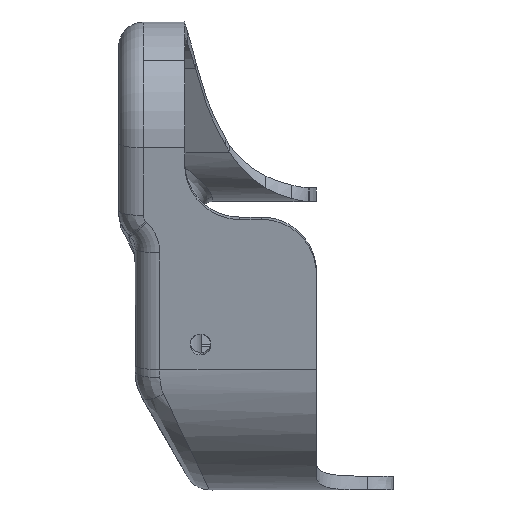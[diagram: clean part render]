
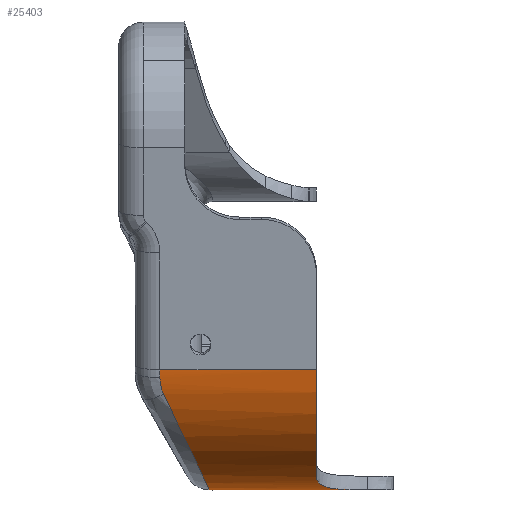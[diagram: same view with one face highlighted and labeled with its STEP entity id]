
A CAD part, left-side view. The second image highlights one B-rep face of the part: STEP entity #25403.
In plain terms, the highlighted cylindrical face has radius 26.5 mm (diameter 53 mm), a partial arc.
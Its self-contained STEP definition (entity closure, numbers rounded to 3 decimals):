
#25390=VECTOR('Line Direction',#25389,1.) ;
#24338=DIRECTION('Axis2P3D Direction',(0.,-1.,0.)) ;
#25384=DIRECTION('Axis2P3D Direction',(0.,1.,0.)) ;
#25385=DIRECTION('Axis2P3D XDirection',(0.643,0.,0.766)) ;
#25389=DIRECTION('Vector Direction',(0.,1.,0.)) ;
#23080=CARTESIAN_POINT('Vertex',(644.593,-540.761,350.545)) ;
#23305=CARTESIAN_POINT('Vertex',(644.593,-512.261,350.545)) ;
#24223=CARTESIAN_POINT('Vertex',(659.771,-540.761,331.)) ;
#24227=CARTESIAN_POINT('Control Point',(659.771,-540.761,331.)) ;
#24228=CARTESIAN_POINT('Control Point',(660.924,-540.761,330.479)) ;
#24229=CARTESIAN_POINT('Control Point',(662.135,-540.933,330.014)) ;
#24230=CARTESIAN_POINT('Control Point',(663.375,-541.312,329.63)) ;
#24231=CARTESIAN_POINT('Control Point',(665.087,-542.184,329.214)) ;
#24232=CARTESIAN_POINT('Control Point',(666.544,-543.434,328.967)) ;
#24233=CARTESIAN_POINT('Control Point',(666.967,-543.856,328.904)) ;
#24234=CARTESIAN_POINT('Control Point',(668.12,-545.191,328.756)) ;
#24235=CARTESIAN_POINT('Control Point',(668.957,-546.742,328.696)) ;
#24236=CARTESIAN_POINT('Control Point',(669.354,-547.832,328.678)) ;
#24237=CARTESIAN_POINT('Control Point',(669.592,-548.958,328.669)) ;
#24238=CARTESIAN_POINT('Control Point',(669.668,-550.094,328.666)) ;
#24239=CARTESIAN_POINT('Vertex',(669.668,-550.094,328.666)) ;
#24281=CARTESIAN_POINT('Control Point',(644.593,-540.761,350.545)) ;
#24282=CARTESIAN_POINT('Control Point',(645.487,-540.761,345.474)) ;
#24283=CARTESIAN_POINT('Control Point',(647.612,-540.761,340.619)) ;
#24284=CARTESIAN_POINT('Control Point',(650.902,-540.761,336.383)) ;
#24285=CARTESIAN_POINT('Control Point',(655.079,-540.761,333.122)) ;
#24286=CARTESIAN_POINT('Control Point',(659.771,-540.761,331.)) ;
#24301=CARTESIAN_POINT('Control Point',(644.593,-540.761,350.545)) ;
#24302=CARTESIAN_POINT('Control Point',(644.593,-512.261,350.545)) ;
#24334=CARTESIAN_POINT('Vertex',(644.89,-512.261,349.098)) ;
#24337=CARTESIAN_POINT('Axis2P3D Location',(670.691,-512.261,355.146)) ;
#24405=CARTESIAN_POINT('Control Point',(644.89,-512.261,349.098)) ;
#24406=CARTESIAN_POINT('Control Point',(644.98,-512.261,348.715)) ;
#24407=CARTESIAN_POINT('Control Point',(645.077,-512.286,348.333)) ;
#24408=CARTESIAN_POINT('Control Point',(645.181,-512.336,347.954)) ;
#24409=CARTESIAN_POINT('Control Point',(645.361,-512.46,347.34)) ;
#24410=CARTESIAN_POINT('Control Point',(645.553,-512.649,346.752)) ;
#24411=CARTESIAN_POINT('Control Point',(645.631,-512.733,346.524)) ;
#24412=CARTESIAN_POINT('Control Point',(645.709,-512.827,346.302)) ;
#24413=CARTESIAN_POINT('Control Point',(645.787,-512.931,346.086)) ;
#24414=CARTESIAN_POINT('Vertex',(645.787,-512.931,346.086)) ;
#24580=CARTESIAN_POINT('Vertex',(670.69,-521.29,328.646)) ;
#24584=CARTESIAN_POINT('Control Point',(670.69,-521.29,328.646)) ;
#24585=CARTESIAN_POINT('Control Point',(668.13,-521.29,328.646)) ;
#24586=CARTESIAN_POINT('Control Point',(665.571,-521.142,328.955)) ;
#24587=CARTESIAN_POINT('Control Point',(663.079,-520.845,329.573)) ;
#24588=CARTESIAN_POINT('Control Point',(658.64,-520.038,331.258)) ;
#24589=CARTESIAN_POINT('Control Point',(654.777,-518.822,333.794)) ;
#24590=CARTESIAN_POINT('Control Point',(653.124,-518.178,335.139)) ;
#24591=CARTESIAN_POINT('Control Point',(650.289,-516.83,337.95)) ;
#24592=CARTESIAN_POINT('Control Point',(648.072,-515.294,341.156)) ;
#24593=CARTESIAN_POINT('Control Point',(647.164,-514.53,342.749)) ;
#24594=CARTESIAN_POINT('Control Point',(646.402,-513.74,344.397)) ;
#24595=CARTESIAN_POINT('Control Point',(645.787,-512.931,346.086)) ;
#25359=CARTESIAN_POINT('Control Point',(670.69,-552.805,328.646)) ;
#25360=CARTESIAN_POINT('Control Point',(670.236,-552.214,328.646)) ;
#25361=CARTESIAN_POINT('Control Point',(669.906,-551.539,328.657)) ;
#25362=CARTESIAN_POINT('Control Point',(669.716,-550.821,328.664)) ;
#25363=CARTESIAN_POINT('Control Point',(669.668,-550.094,328.666)) ;
#25364=CARTESIAN_POINT('Vertex',(670.69,-552.805,328.646)) ;
#25383=CARTESIAN_POINT('Axis2P3D Location',(670.691,-512.577,355.146)) ;
#25388=CARTESIAN_POINT('Line Origine',(670.69,-525.777,328.646)) ;
#24339=AXIS2_PLACEMENT_3D('Circle Axis2P3D',#24337,#24338,$) ;
#25386=AXIS2_PLACEMENT_3D('Cylinder Axis2P3D',#25383,#25384,#25385) ;
#24241=EDGE_CURVE('',#24240,#24224,#24226,.F.) ;
#24287=EDGE_CURVE('',#23081,#24224,#24280,.T.) ;
#24303=EDGE_CURVE('',#23081,#23306,#24300,.T.) ;
#24341=EDGE_CURVE('',#24335,#23306,#24340,.F.) ;
#24416=EDGE_CURVE('',#24415,#24335,#24404,.F.) ;
#24596=EDGE_CURVE('',#24581,#24415,#24583,.T.) ;
#25366=EDGE_CURVE('',#24240,#25365,#25358,.F.) ;
#25392=EDGE_CURVE('',#25365,#24581,#25391,.T.) ;
#25394=ORIENTED_EDGE('',*,*,#24241,.T.) ;
#25395=ORIENTED_EDGE('',*,*,#24287,.F.) ;
#25396=ORIENTED_EDGE('',*,*,#24303,.T.) ;
#25397=ORIENTED_EDGE('',*,*,#24341,.F.) ;
#25398=ORIENTED_EDGE('',*,*,#24416,.F.) ;
#25399=ORIENTED_EDGE('',*,*,#24596,.F.) ;
#25400=ORIENTED_EDGE('',*,*,#25392,.F.) ;
#25401=ORIENTED_EDGE('',*,*,#25366,.F.) ;
#25391=LINE('Line',#25388,#25390) ;
#25403=ADVANCED_FACE('0112',(#25402),#25387,.T.) ;
#24340=CIRCLE('generated circle',#24339,26.5) ;
#25387=CYLINDRICAL_SURFACE('generated cylinder',#25386,26.5) ;
#23081=VERTEX_POINT('',#23080) ;
#23306=VERTEX_POINT('',#23305) ;
#24224=VERTEX_POINT('',#24223) ;
#24240=VERTEX_POINT('',#24239) ;
#24335=VERTEX_POINT('',#24334) ;
#24415=VERTEX_POINT('',#24414) ;
#24581=VERTEX_POINT('',#24580) ;
#25365=VERTEX_POINT('',#25364) ;
#24226=B_SPLINE_CURVE_WITH_KNOTS('',5,(#24227,#24228,#24229,#24230,#24231,#24232,#24233,#24234,#24235,#24236,#24237,#24238),.UNSPECIFIED.,.F.,.U.,(6,3,3,6),(0.,7.618,11.062,17.807),.UNSPECIFIED.) ;
#24280=B_SPLINE_CURVE_WITH_KNOTS('',5,(#24281,#24282,#24283,#24284,#24285,#24286),.UNSPECIFIED.,.F.,.U.,(6,6),(0.,23.318),.UNSPECIFIED.) ;
#24300=B_SPLINE_CURVE_WITH_KNOTS('',1,(#24301,#24302),.UNSPECIFIED.,.F.,.U.,(2,2),(-28.184,0.316),.UNSPECIFIED.) ;
#24404=B_SPLINE_CURVE_WITH_KNOTS('',5,(#24405,#24406,#24407,#24408,#24409,#24410,#24411,#24412,#24413),.UNSPECIFIED.,.F.,.U.,(6,3,6),(31.265,34.79,37.097),.UNSPECIFIED.) ;
#24583=B_SPLINE_CURVE_WITH_KNOTS('',5,(#24584,#24585,#24586,#24587,#24588,#24589,#24590,#24591,#24592,#24593,#24594,#24595),.UNSPECIFIED.,.F.,.U.,(6,3,3,6),(47.883,63.606,77.368,89.804),.UNSPECIFIED.) ;
#25358=B_SPLINE_CURVE_WITH_KNOTS('',4,(#25359,#25360,#25361,#25362,#25363),.UNSPECIFIED.,.F.,.U.,(5,5),(0.,3.497),.UNSPECIFIED.) ;
#25393=EDGE_LOOP('',(#25394,#25395,#25396,#25397,#25398,#25399,#25400,#25401)) ;
#25402=FACE_OUTER_BOUND('',#25393,.T.) ;
